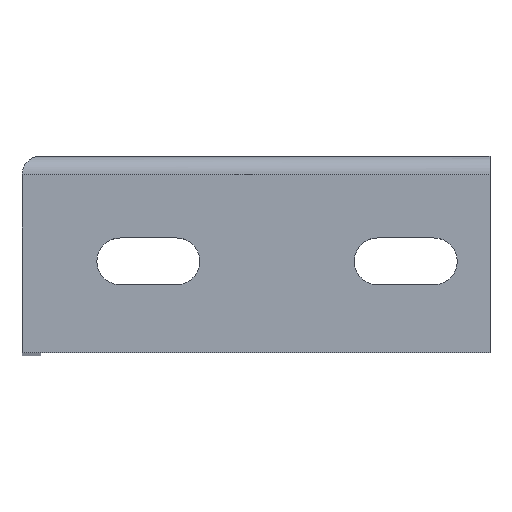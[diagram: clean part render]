
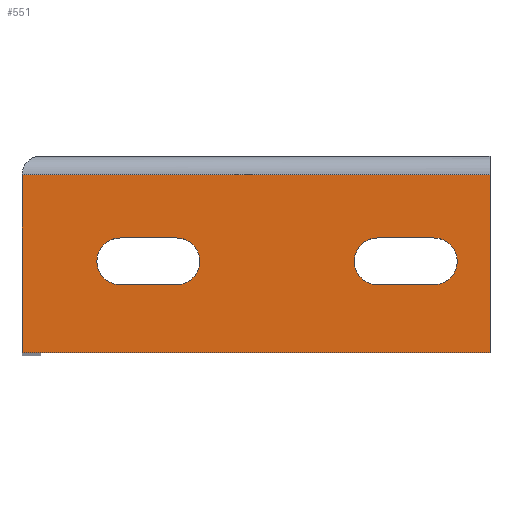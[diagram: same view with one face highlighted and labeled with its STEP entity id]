
A CAD part, top view. The second image highlights one B-rep face of the part: STEP entity #551.
In plain terms, the highlighted planar face has unit normal (0, 0, 1).
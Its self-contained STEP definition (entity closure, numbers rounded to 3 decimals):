
#26=DIRECTION('',(1.,0.,0.));
#27=VECTOR('',#26,100.);
#28=CARTESIAN_POINT('',(0.,-4.,0.));
#29=LINE('',#28,#27);
#50=CARTESIAN_POINT('',(21.,-22.5,0.));
#51=DIRECTION('',(0.,0.,-1.));
#52=DIRECTION('',(0.,-1.,0.));
#53=AXIS2_PLACEMENT_3D('',#50,#51,#52);
#55=DIRECTION('',(-1.,0.,0.));
#56=VECTOR('',#55,12.);
#57=CARTESIAN_POINT('',(33.,-27.5,0.));
#58=LINE('',#57,#56);
#59=CARTESIAN_POINT('',(33.,-22.5,0.));
#60=DIRECTION('',(0.,0.,-1.));
#61=DIRECTION('',(0.,1.,0.));
#62=AXIS2_PLACEMENT_3D('',#59,#60,#61);
#64=DIRECTION('',(1.,0.,0.));
#65=VECTOR('',#64,12.);
#66=CARTESIAN_POINT('',(21.,-17.5,0.));
#67=LINE('',#66,#65);
#68=CARTESIAN_POINT('',(76.,-22.5,0.));
#69=DIRECTION('',(0.,0.,-1.));
#70=DIRECTION('',(0.,-1.,0.));
#71=AXIS2_PLACEMENT_3D('',#68,#69,#70);
#73=DIRECTION('',(-1.,0.,0.));
#74=VECTOR('',#73,12.);
#75=CARTESIAN_POINT('',(88.,-27.5,0.));
#76=LINE('',#75,#74);
#77=CARTESIAN_POINT('',(88.,-22.5,0.));
#78=DIRECTION('',(0.,0.,-1.));
#79=DIRECTION('',(0.,1.,0.));
#80=AXIS2_PLACEMENT_3D('',#77,#78,#79);
#82=DIRECTION('',(1.,0.,0.));
#83=VECTOR('',#82,12.);
#84=CARTESIAN_POINT('',(76.,-17.5,0.));
#85=LINE('',#84,#83);
#86=DIRECTION('',(0.,-1.,0.));
#87=VECTOR('',#86,38.);
#88=CARTESIAN_POINT('',(0.,-4.,0.));
#89=LINE('',#88,#87);
#318=DIRECTION('',(1.,0.,0.));
#319=VECTOR('',#318,100.);
#320=CARTESIAN_POINT('',(0.,-42.,0.));
#321=LINE('',#320,#319);
#358=DIRECTION('',(0.,-1.,0.));
#359=VECTOR('',#358,38.);
#360=CARTESIAN_POINT('',(100.,-4.,0.));
#361=LINE('',#360,#359);
#367=CARTESIAN_POINT('',(0.,-42.,0.));
#369=VERTEX_POINT('',#367);
#370=CARTESIAN_POINT('',(100.,-42.,0.));
#371=VERTEX_POINT('',#370);
#414=CARTESIAN_POINT('',(21.,-27.5,0.));
#415=CARTESIAN_POINT('',(21.,-17.5,0.));
#416=VERTEX_POINT('',#414);
#417=VERTEX_POINT('',#415);
#418=CARTESIAN_POINT('',(33.,-17.5,0.));
#419=VERTEX_POINT('',#418);
#420=CARTESIAN_POINT('',(33.,-27.5,0.));
#421=VERTEX_POINT('',#420);
#422=CARTESIAN_POINT('',(76.,-27.5,0.));
#423=CARTESIAN_POINT('',(76.,-17.5,0.));
#424=VERTEX_POINT('',#422);
#425=VERTEX_POINT('',#423);
#426=CARTESIAN_POINT('',(88.,-17.5,0.));
#427=VERTEX_POINT('',#426);
#428=CARTESIAN_POINT('',(88.,-27.5,0.));
#429=VERTEX_POINT('',#428);
#463=CARTESIAN_POINT('',(0.,-4.,0.));
#465=VERTEX_POINT('',#463);
#466=CARTESIAN_POINT('',(100.,-4.,0.));
#467=VERTEX_POINT('',#466);
#517=CARTESIAN_POINT('',(0.,0.,0.));
#518=DIRECTION('',(0.,0.,1.));
#519=DIRECTION('',(1.,0.,0.));
#520=AXIS2_PLACEMENT_3D('',#517,#518,#519);
#521=PLANE('',#520);
#522=ORIENTED_EDGE('',*,*,#508,.T.);
#524=ORIENTED_EDGE('',*,*,#523,.T.);
#526=ORIENTED_EDGE('',*,*,#525,.F.);
#528=ORIENTED_EDGE('',*,*,#527,.F.);
#529=EDGE_LOOP('',(#522,#524,#526,#528));
#530=FACE_OUTER_BOUND('',#529,.F.);
#532=ORIENTED_EDGE('',*,*,#531,.F.);
#534=ORIENTED_EDGE('',*,*,#533,.F.);
#536=ORIENTED_EDGE('',*,*,#535,.F.);
#538=ORIENTED_EDGE('',*,*,#537,.F.);
#539=EDGE_LOOP('',(#532,#534,#536,#538));
#540=FACE_BOUND('',#539,.F.);
#542=ORIENTED_EDGE('',*,*,#541,.F.);
#544=ORIENTED_EDGE('',*,*,#543,.F.);
#546=ORIENTED_EDGE('',*,*,#545,.F.);
#548=ORIENTED_EDGE('',*,*,#547,.F.);
#549=EDGE_LOOP('',(#542,#544,#546,#548));
#550=FACE_BOUND('',#549,.F.);
#551=ADVANCED_FACE('',(#530,#540,#550),#521,.T.);
#54=CIRCLE('',#53,5.);
#63=CIRCLE('',#62,5.);
#72=CIRCLE('',#71,5.);
#81=CIRCLE('',#80,5.);
#508=EDGE_CURVE('',#465,#467,#29,.T.);
#523=EDGE_CURVE('',#467,#371,#361,.T.);
#525=EDGE_CURVE('',#369,#371,#321,.T.);
#527=EDGE_CURVE('',#465,#369,#89,.T.);
#531=EDGE_CURVE('',#416,#417,#54,.T.);
#533=EDGE_CURVE('',#421,#416,#58,.T.);
#535=EDGE_CURVE('',#419,#421,#63,.T.);
#537=EDGE_CURVE('',#417,#419,#67,.T.);
#541=EDGE_CURVE('',#424,#425,#72,.T.);
#543=EDGE_CURVE('',#429,#424,#76,.T.);
#545=EDGE_CURVE('',#427,#429,#81,.T.);
#547=EDGE_CURVE('',#425,#427,#85,.T.);
